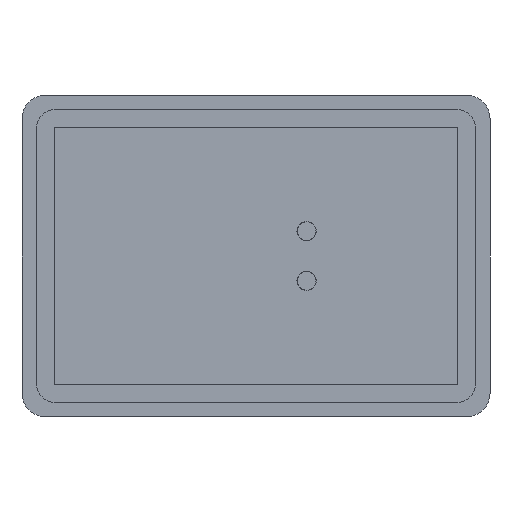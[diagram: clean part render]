
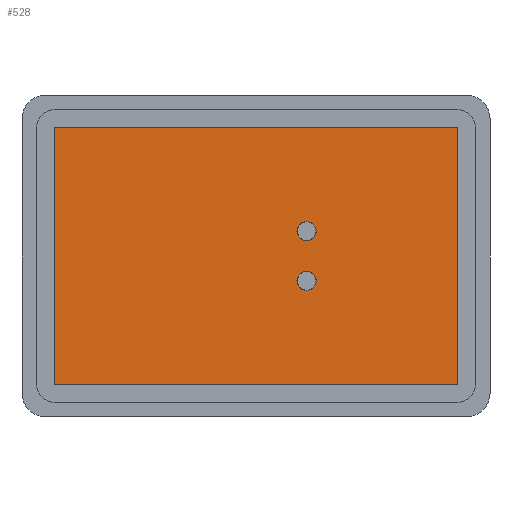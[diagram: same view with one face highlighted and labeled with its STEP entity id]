
A CAD part, front view. The second image highlights one B-rep face of the part: STEP entity #528.
In plain terms, the highlighted planar face has unit normal (0, -1, 0).
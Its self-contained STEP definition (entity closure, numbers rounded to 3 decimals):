
#73 = CARTESIAN_POINT ( 'NONE',  ( 17.25, -4., 11.802 ) ) ;
#236 = EDGE_CURVE ( 'NONE', #3408, #1191, #3800, .T. ) ;
#307 = DIRECTION ( 'NONE',  ( 0., 0., -1. ) ) ;
#318 = ORIENTED_EDGE ( 'NONE', *, *, #2624, .T. ) ;
#345 = LINE ( 'NONE', #3978, #5572 ) ;
#358 = CARTESIAN_POINT ( 'NONE',  ( 17.25, -4., 8.5 ) ) ;
#396 = DIRECTION ( 'NONE',  ( 0., 0., -1. ) ) ;
#422 = FACE_BOUND ( 'NONE', #904, .T. ) ;
#528 = ADVANCED_FACE ( 'NONE', ( #422, #5020, #3137 ), #4016, .F. ) ;
#572 = ORIENTED_EDGE ( 'NONE', *, *, #2441, .F. ) ;
#580 = CIRCLE ( 'NONE', #2507, 0.35 ) ;
#642 = DIRECTION ( 'NONE',  ( 0., 0., 1. ) ) ;
#771 = AXIS2_PLACEMENT_3D ( 'NONE', #4126, #4560, #5482 ) ;
#790 = ORIENTED_EDGE ( 'NONE', *, *, #1430, .F. ) ;
#802 = CARTESIAN_POINT ( 'NONE',  ( -68.58, -4., 43.987 ) ) ;
#803 = LINE ( 'NONE', #2668, #3200 ) ;
#904 = EDGE_LOOP ( 'NONE', ( #572, #4779 ) ) ;
#955 = AXIS2_PLACEMENT_3D ( 'NONE', #358, #5787, #307 ) ;
#957 = CIRCLE ( 'NONE', #1644, 3.302 ) ;
#1083 = DIRECTION ( 'NONE',  ( 0., 0., 1. ) ) ;
#1114 = ORIENTED_EDGE ( 'NONE', *, *, #2292, .F. ) ;
#1185 = VERTEX_POINT ( 'NONE', #3268 ) ;
#1191 = VERTEX_POINT ( 'NONE', #5594 ) ;
#1226 = CARTESIAN_POINT ( 'NONE',  ( 68.58, -4., 43.987 ) ) ;
#1247 = VERTEX_POINT ( 'NONE', #2129 ) ;
#1430 = EDGE_CURVE ( 'NONE', #3790, #1247, #4598, .T. ) ;
#1431 = EDGE_CURVE ( 'NONE', #3075, #4664, #4894, .T. ) ;
#1503 = CARTESIAN_POINT ( 'NONE',  ( 68.58, -4., -43.637 ) ) ;
#1504 = AXIS2_PLACEMENT_3D ( 'NONE', #3319, #3289, #5637 ) ;
#1542 = CARTESIAN_POINT ( 'NONE',  ( -68.93, -4., -43.637 ) ) ;
#1612 = CARTESIAN_POINT ( 'NONE',  ( 68.58, -4., -43.987 ) ) ;
#1644 = AXIS2_PLACEMENT_3D ( 'NONE', #2913, #4744, #4710 ) ;
#1708 = DIRECTION ( 'NONE',  ( 0., 0., 1. ) ) ;
#1769 = DIRECTION ( 'NONE',  ( 0., -1., 0. ) ) ;
#1923 = ORIENTED_EDGE ( 'NONE', *, *, #236, .T. ) ;
#1968 = ORIENTED_EDGE ( 'NONE', *, *, #5183, .T. ) ;
#1987 = DIRECTION ( 'NONE',  ( 0., -1., 0. ) ) ;
#2129 = CARTESIAN_POINT ( 'NONE',  ( 17.25, -4., -5.198 ) ) ;
#2154 = LINE ( 'NONE', #5879, #3090 ) ;
#2288 = CARTESIAN_POINT ( 'NONE',  ( 0., -4., 0. ) ) ;
#2292 = EDGE_CURVE ( 'NONE', #1247, #3790, #3182, .T. ) ;
#2441 = EDGE_CURVE ( 'NONE', #3585, #2531, #957, .T. ) ;
#2507 = AXIS2_PLACEMENT_3D ( 'NONE', #4834, #4796, #642 ) ;
#2531 = VERTEX_POINT ( 'NONE', #73 ) ;
#2624 = EDGE_CURVE ( 'NONE', #2713, #4672, #580, .T. ) ;
#2668 = CARTESIAN_POINT ( 'NONE',  ( -68.58, -4., -43.987 ) ) ;
#2671 = EDGE_LOOP ( 'NONE', ( #790, #1114 ) ) ;
#2713 = VERTEX_POINT ( 'NONE', #802 ) ;
#2758 = AXIS2_PLACEMENT_3D ( 'NONE', #2288, #5375, #5453 ) ;
#2820 = EDGE_LOOP ( 'NONE', ( #1923, #1968, #4362, #3250, #5633, #3140, #318, #4460 ) ) ;
#2877 = AXIS2_PLACEMENT_3D ( 'NONE', #4971, #5821, #1708 ) ;
#2913 = CARTESIAN_POINT ( 'NONE',  ( 17.25, -4., 8.5 ) ) ;
#2945 = CARTESIAN_POINT ( 'NONE',  ( -68.93, -4., 43.637 ) ) ;
#3075 = VERTEX_POINT ( 'NONE', #3506 ) ;
#3090 = VECTOR ( 'NONE', #396, 1000. ) ;
#3137 = FACE_OUTER_BOUND ( 'NONE', #2820, .T. ) ;
#3140 = ORIENTED_EDGE ( 'NONE', *, *, #3929, .T. ) ;
#3180 = CIRCLE ( 'NONE', #955, 3.302 ) ;
#3182 = CIRCLE ( 'NONE', #771, 3.302 ) ;
#3200 = VECTOR ( 'NONE', #4003, 1000. ) ;
#3224 = EDGE_CURVE ( 'NONE', #4672, #3408, #2154, .T. ) ;
#3250 = ORIENTED_EDGE ( 'NONE', *, *, #5173, .T. ) ;
#3268 = CARTESIAN_POINT ( 'NONE',  ( 68.93, -4., -43.637 ) ) ;
#3289 = DIRECTION ( 'NONE',  ( 0., -1., 0. ) ) ;
#3319 = CARTESIAN_POINT ( 'NONE',  ( -68.58, -4., -43.637 ) ) ;
#3360 = AXIS2_PLACEMENT_3D ( 'NONE', #4000, #1769, #4086 ) ;
#3408 = VERTEX_POINT ( 'NONE', #1542 ) ;
#3426 = DIRECTION ( 'NONE',  ( -1., 0., 0. ) ) ;
#3434 = CARTESIAN_POINT ( 'NONE',  ( 68.58, -4., 43.987 ) ) ;
#3454 = LINE ( 'NONE', #1226, #4323 ) ;
#3506 = CARTESIAN_POINT ( 'NONE',  ( 68.93, -4., 43.637 ) ) ;
#3585 = VERTEX_POINT ( 'NONE', #5344 ) ;
#3655 = AXIS2_PLACEMENT_3D ( 'NONE', #1503, #1987, #1083 ) ;
#3660 = EDGE_CURVE ( 'NONE', #2531, #3585, #3180, .T. ) ;
#3790 = VERTEX_POINT ( 'NONE', #5625 ) ;
#3800 = CIRCLE ( 'NONE', #1504, 0.35 ) ;
#3885 = DIRECTION ( 'NONE',  ( 0., 0., 1. ) ) ;
#3929 = EDGE_CURVE ( 'NONE', #4664, #2713, #3454, .T. ) ;
#3978 = CARTESIAN_POINT ( 'NONE',  ( 68.93, -4., -43.637 ) ) ;
#4000 = CARTESIAN_POINT ( 'NONE',  ( 17.25, -4., -8.5 ) ) ;
#4003 = DIRECTION ( 'NONE',  ( 1., 0., 0. ) ) ;
#4016 = PLANE ( 'NONE',  #2758 ) ;
#4086 = DIRECTION ( 'NONE',  ( 0., 0., -1. ) ) ;
#4126 = CARTESIAN_POINT ( 'NONE',  ( 17.25, -4., -8.5 ) ) ;
#4301 = VERTEX_POINT ( 'NONE', #1612 ) ;
#4323 = VECTOR ( 'NONE', #3426, 1000. ) ;
#4362 = ORIENTED_EDGE ( 'NONE', *, *, #4663, .T. ) ;
#4460 = ORIENTED_EDGE ( 'NONE', *, *, #3224, .T. ) ;
#4560 = DIRECTION ( 'NONE',  ( 0., -1., 0. ) ) ;
#4598 = CIRCLE ( 'NONE', #3360, 3.302 ) ;
#4663 = EDGE_CURVE ( 'NONE', #4301, #1185, #4813, .T. ) ;
#4664 = VERTEX_POINT ( 'NONE', #3434 ) ;
#4672 = VERTEX_POINT ( 'NONE', #2945 ) ;
#4710 = DIRECTION ( 'NONE',  ( 0., 0., -1. ) ) ;
#4744 = DIRECTION ( 'NONE',  ( 0., -1., 0. ) ) ;
#4779 = ORIENTED_EDGE ( 'NONE', *, *, #3660, .F. ) ;
#4796 = DIRECTION ( 'NONE',  ( 0., -1., 0. ) ) ;
#4813 = CIRCLE ( 'NONE', #3655, 0.35 ) ;
#4834 = CARTESIAN_POINT ( 'NONE',  ( -68.58, -4., 43.637 ) ) ;
#4894 = CIRCLE ( 'NONE', #2877, 0.35 ) ;
#4971 = CARTESIAN_POINT ( 'NONE',  ( 68.58, -4., 43.637 ) ) ;
#5020 = FACE_BOUND ( 'NONE', #2671, .T. ) ;
#5173 = EDGE_CURVE ( 'NONE', #1185, #3075, #345, .T. ) ;
#5183 = EDGE_CURVE ( 'NONE', #1191, #4301, #803, .T. ) ;
#5344 = CARTESIAN_POINT ( 'NONE',  ( 17.25, -4., 5.198 ) ) ;
#5375 = DIRECTION ( 'NONE',  ( 0., 1., 0. ) ) ;
#5453 = DIRECTION ( 'NONE',  ( 0., 0., 1. ) ) ;
#5482 = DIRECTION ( 'NONE',  ( 0., 0., -1. ) ) ;
#5572 = VECTOR ( 'NONE', #3885, 1000. ) ;
#5594 = CARTESIAN_POINT ( 'NONE',  ( -68.58, -4., -43.987 ) ) ;
#5625 = CARTESIAN_POINT ( 'NONE',  ( 17.25, -4., -11.802 ) ) ;
#5633 = ORIENTED_EDGE ( 'NONE', *, *, #1431, .T. ) ;
#5637 = DIRECTION ( 'NONE',  ( 0., 0., 1. ) ) ;
#5787 = DIRECTION ( 'NONE',  ( 0., -1., 0. ) ) ;
#5821 = DIRECTION ( 'NONE',  ( 0., -1., 0. ) ) ;
#5879 = CARTESIAN_POINT ( 'NONE',  ( -68.93, -4., 43.637 ) ) ;
